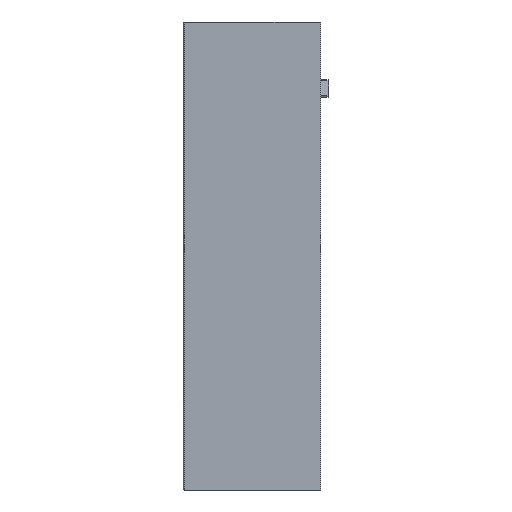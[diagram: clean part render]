
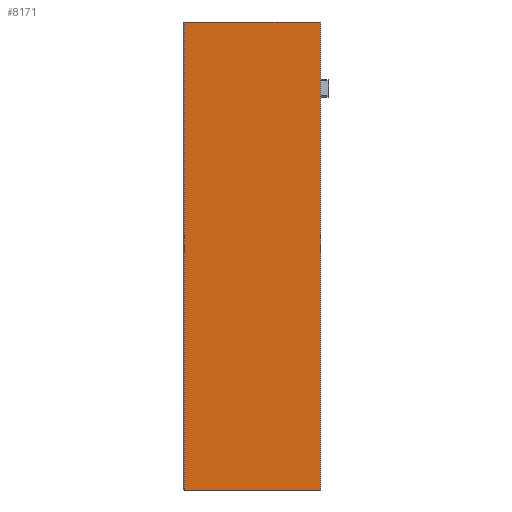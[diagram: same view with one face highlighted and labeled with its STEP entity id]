
A CAD part, left-side view. The second image highlights one B-rep face of the part: STEP entity #8171.
In plain terms, the highlighted planar face has unit normal (-1, 0, 0).
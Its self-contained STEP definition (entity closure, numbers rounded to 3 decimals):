
#160 = CARTESIAN_POINT ( 'NONE',  ( -12.5, 55.8, -299. ) ) ;
#384 = CARTESIAN_POINT ( 'NONE',  ( -12.5, 55.8, 0. ) ) ;
#547 = VECTOR ( 'NONE', #11451, 1000. ) ;
#729 = VERTEX_POINT ( 'NONE', #6454 ) ;
#1141 = LINE ( 'NONE', #6574, #547 ) ;
#1818 = AXIS2_PLACEMENT_3D ( 'NONE', #8564, #9171, #9188 ) ;
#1931 = VERTEX_POINT ( 'NONE', #160 ) ;
#2410 = CARTESIAN_POINT ( 'NONE',  ( -12.5, -30.66, -299. ) ) ;
#3483 = DIRECTION ( 'NONE',  ( 0., -1., 0. ) ) ;
#3558 = ORIENTED_EDGE ( 'NONE', *, *, #10182, .F. ) ;
#3955 = ORIENTED_EDGE ( 'NONE', *, *, #10201, .F. ) ;
#4102 = FACE_OUTER_BOUND ( 'NONE', #10166, .T. ) ;
#4876 = ORIENTED_EDGE ( 'NONE', *, *, #9397, .T. ) ;
#5542 = VERTEX_POINT ( 'NONE', #10434 ) ;
#6184 = VERTEX_POINT ( 'NONE', #2410 ) ;
#6454 = CARTESIAN_POINT ( 'NONE',  ( -12.5, 55.8, 0. ) ) ;
#6574 = CARTESIAN_POINT ( 'NONE',  ( -12.5, 56.8, -299. ) ) ;
#6896 = VECTOR ( 'NONE', #6971, 1000. ) ;
#6905 = ORIENTED_EDGE ( 'NONE', *, *, #10175, .T. ) ;
#6971 = DIRECTION ( 'NONE',  ( 0., 0., 1. ) ) ;
#7745 = VECTOR ( 'NONE', #9709, 1000. ) ;
#8129 = LINE ( 'NONE', #384, #11374 ) ;
#8171 = ADVANCED_FACE ( 'NONE', ( #4102 ), #9028, .T. ) ;
#8189 = LINE ( 'NONE', #10765, #7745 ) ;
#8200 = LINE ( 'NONE', #8285, #6896 ) ;
#8285 = CARTESIAN_POINT ( 'NONE',  ( -12.5, -30.66, -362.455 ) ) ;
#8564 = CARTESIAN_POINT ( 'NONE',  ( -12.5, 55.8, -362.455 ) ) ;
#9028 = PLANE ( 'NONE',  #1818 ) ;
#9171 = DIRECTION ( 'NONE',  ( -1., 0., 0. ) ) ;
#9188 = DIRECTION ( 'NONE',  ( 0., 1., 0. ) ) ;
#9397 = EDGE_CURVE ( 'NONE', #1931, #6184, #1141, .T. ) ;
#9709 = DIRECTION ( 'NONE',  ( 0., 0., 1. ) ) ;
#10166 = EDGE_LOOP ( 'NONE', ( #6905, #3558, #3955, #4876 ) ) ;
#10175 = EDGE_CURVE ( 'NONE', #6184, #5542, #8200, .T. ) ;
#10182 = EDGE_CURVE ( 'NONE', #729, #5542, #8129, .T. ) ;
#10201 = EDGE_CURVE ( 'NONE', #1931, #729, #8189, .T. ) ;
#10434 = CARTESIAN_POINT ( 'NONE',  ( -12.5, -30.66, 0. ) ) ;
#10765 = CARTESIAN_POINT ( 'NONE',  ( -12.5, 55.8, -362.455 ) ) ;
#11374 = VECTOR ( 'NONE', #3483, 1000. ) ;
#11451 = DIRECTION ( 'NONE',  ( 0., -1., 0. ) ) ;
